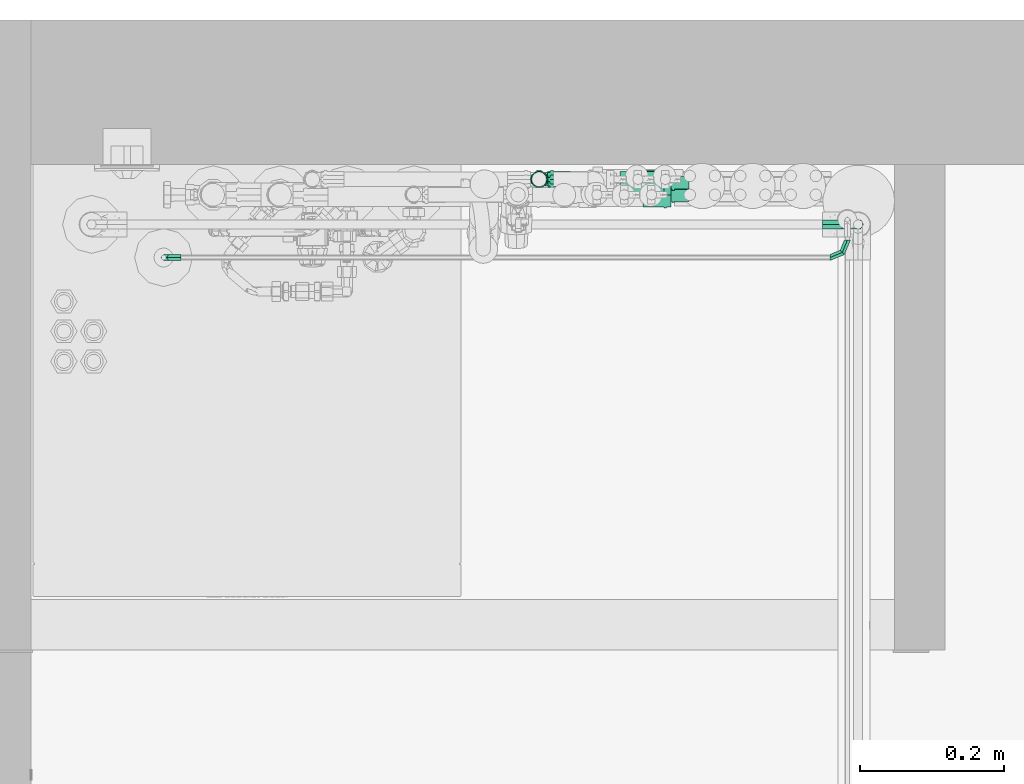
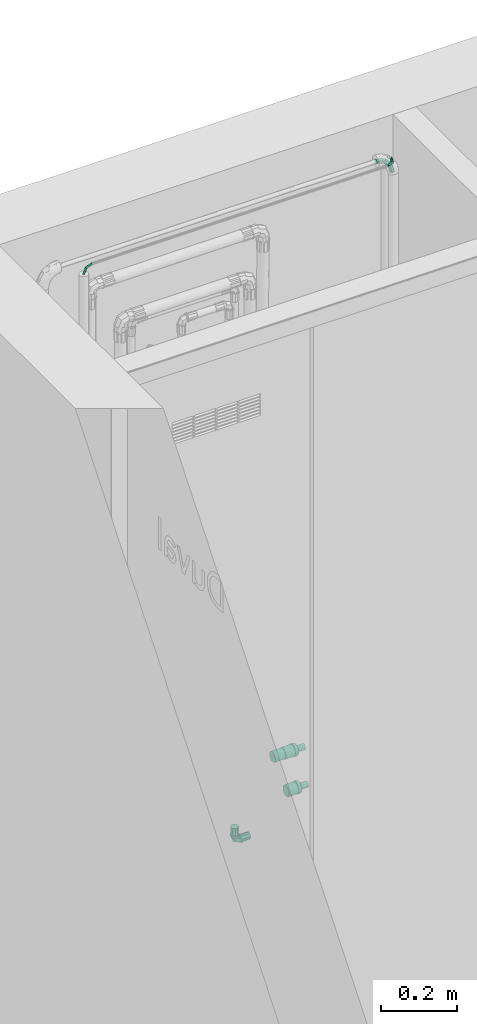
# One storey, part 24 of 32: 6 flow fittings, 1 flow segment.
"""IFC2X3 building model written with IfcOpenShell, lengths in metres."""

import ifcopenshell
import ifcopenshell.guid

model = None  # the IFC model being written
_history = None  # IfcOwnerHistory: only IFC2X3 demands one
_inside = {}  # id of a spatial element -> (the spatial element, [elements in it])
_under = {}  # id of a project, library or spatial element -> (it, [spatial elements below it])
_declared = {}  # id of a project -> (the project, [libraries it declares])
_typed = {}  # id of a type object -> (the type object, [elements of that type])
_made_of = {}  # id of a material, layer set ... -> (it, [elements and type objects made of it])


def new_model(schema):
    """Start an empty IFC model of exactly this schema.

    Asked for "IFC4X3", IfcOpenShell would pick the latest addendum, in which some entities
    have other attributes; the version numbers below select the first issue.
    IFC2X3 requires an IfcOwnerHistory on every rooted entity: one is made here for all.
    """
    global model, _history
    if schema == "IFC4X3":
        model = ifcopenshell.file(schema_version=(4, 3, 0, 0))
    else:
        model = ifcopenshell.file(schema=schema)
    _inside.clear()
    _under.clear()
    _declared.clear()
    _typed.clear()
    _made_of.clear()
    _history = None
    if model.schema == "IFC2X3":
        org = make("IfcOrganization", Name="unknown")
        user = make(
            "IfcPersonAndOrganization",
            ThePerson=make("IfcPerson", FamilyName="unknown"),
            TheOrganization=org,
        )
        app = make(
            "IfcApplication",
            ApplicationDeveloper=org,
            Version="unknown",
            ApplicationFullName="unknown",
            ApplicationIdentifier="unknown",
        )
        _history = make(
            "IfcOwnerHistory",
            OwningUser=user,
            OwningApplication=app,
            ChangeAction="ADDED",
            CreationDate=0,
        )
    return model


def make(cls, **values):
    """One entity of the class cls with the attributes given. An attribute that is None is left unset."""
    return model.create_entity(
        cls, **{name: value for name, value in values.items() if value is not None}
    )


def entity(cls, *values):
    """Any entity or typed value of the class cls, its attributes in the order of the schema. None: left unset."""
    e = model.create_entity(cls)
    for i, value in enumerate(values):
        if value is not None:
            e[i] = value
    return e


def rooted(cls, **values):
    """An entity with a GlobalId (a new one), such as an element, a storey or a relation."""
    return make(cls, GlobalId=ifcopenshell.guid.new(), OwnerHistory=_history, **values)


def si_unit(unit_type, name, prefix=None):
    """IfcSIUnit, for example si_unit("LENGTHUNIT", "METRE", prefix="MILLI")."""
    return make("IfcSIUnit", UnitType=unit_type, Prefix=prefix, Name=name)


def converted_unit(unit_type, name, factor, base, dimensions=None, offset=None):
    """IfcConversionBasedUnit, such as the inch: factor (a typed value) times the base unit."""
    return make(
        "IfcConversionBasedUnit"
        if offset is None
        else "IfcConversionBasedUnitWithOffset",
        ConversionOffset=offset,
        Dimensions=None
        if dimensions is None
        else entity("IfcDimensionalExponents", *dimensions),
        UnitType=unit_type,
        Name=name,
        ConversionFactor=make(
            "IfcMeasureWithUnit", ValueComponent=factor, UnitComponent=base
        ),
    )


def derived_unit(unit_type, elements):
    """IfcDerivedUnit: a product of units, each with its exponent."""
    return make(
        "IfcDerivedUnit",
        Elements=[
            make("IfcDerivedUnitElement", Unit=unit, Exponent=power)
            for unit, power in elements
        ],
        UnitType=unit_type,
    )


def assignment(units):
    """IfcUnitAssignment: the units of a project."""
    return None if units is None else make("IfcUnitAssignment", Units=units)


def point(xyz):
    """IfcCartesianPoint."""
    return None if xyz is None else make("IfcCartesianPoint", Coordinates=xyz)


def direction(xyz):
    """IfcDirection."""
    return None if xyz is None else make("IfcDirection", DirectionRatios=xyz)


def frame(location, z_axis=None, x_axis=None):
    """IfcAxis2Placement3D, a coordinate frame: its origin and axes. An axis left out is left unset."""
    return make(
        "IfcAxis2Placement3D",
        Location=point(location),
        Axis=direction(z_axis),
        RefDirection=direction(x_axis),
    )


def frame_2d(location, x_axis=None):
    """IfcAxis2Placement2D, a coordinate frame in the plane: its origin and x axis."""
    return make(
        "IfcAxis2Placement2D", Location=point(location), RefDirection=direction(x_axis)
    )


def origin():
    """The frame at (0, 0, 0) with its axes left unset."""
    return frame((0.0, 0.0, 0.0))


def place(relative_to, where):
    """IfcLocalPlacement: puts the frame where relative to a parent placement (None: the world)."""
    return make(
        "IfcLocalPlacement", PlacementRelTo=relative_to, RelativePlacement=where
    )


def context(
    kind, dimensions, precision=None, world=None, true_north=None, identifier=None
):
    """IfcGeometricRepresentationContext, for example the 3D "Model" context."""
    return make(
        "IfcGeometricRepresentationContext",
        ContextIdentifier=identifier,
        ContextType=kind,
        CoordinateSpaceDimension=dimensions,
        Precision=precision,
        WorldCoordinateSystem=world,
        TrueNorth=true_north,
    )


def subcontext(parent, identifier, kind, view, scale=None):
    """IfcGeometricRepresentationSubContext, for example "Body" below "Model"."""
    return make(
        "IfcGeometricRepresentationSubContext",
        ContextIdentifier=identifier,
        ContextType=kind,
        ParentContext=parent,
        TargetScale=scale,
        TargetView=view,
    )


def project(units=None, contexts=None):
    """IfcProject with its units and contexts."""
    return rooted(
        "IfcProject",
        Name="project",
        RepresentationContexts=contexts,
        UnitsInContext=assignment(units),
    )


def spatial(cls, under=None, at=None, **own):
    """A site, building, storey or space (cls), placed at a placement, below another one or the project."""
    s = rooted(cls, ObjectPlacement=at, **own)
    if under is not None:
        _under.setdefault(under.id(), (under, []))[1].append(s)
    return s


def profile(cls, at=None, kind="AREA", **sizes):
    """A parametric profile (cls). Its sizes go by their IFC names, for example OverallWidth=200.0."""
    return make(cls, ProfileType=kind, Position=at, **sizes)


def circle(**sizes):
    """IfcCircleProfileDef."""
    return profile("IfcCircleProfileDef", **sizes)


def extrude(swept, where, along, depth):
    """IfcExtrudedAreaSolid: the profile swept, set in the frame where, extruded along a direction by depth."""
    return make(
        "IfcExtrudedAreaSolid",
        SweptArea=swept,
        Position=where,
        ExtrudedDirection=direction(along),
        Depth=depth,
    )


def faces_of(points, faces, orient=None, outer=None):
    """IfcFace entities. A face is a list of loops; a loop is a list of indices into points, from 0.

    orient and outer hold one flag for each loop. By default every Orientation is true, the
    first loop of a face is its IfcFaceOuterBound and the others are IfcFaceBound.
    """
    made = []
    for i, loops in enumerate(faces):
        bounds = []
        for j, loop in enumerate(loops):
            is_outer = j == 0 if outer is None else outer[i][j]
            bounds.append(
                make(
                    "IfcFaceOuterBound" if is_outer else "IfcFaceBound",
                    Bound=make("IfcPolyLoop", Polygon=[points[k] for k in loop]),
                    Orientation=True if orient is None else orient[i][j],
                )
            )
        made.append(make("IfcFace", Bounds=bounds))
    return made


def faceted_brep(points, faces, orient=None, outer=None, voids=None):
    """IfcFacetedBrep: a solid bounded by flat faces; with voids (closed shells), ...WithVoids."""
    shared = [point(p) for p in points]
    hull = make("IfcClosedShell", CfsFaces=faces_of(shared, faces, orient, outer))
    if voids is None:
        return make("IfcFacetedBrep", Outer=hull)
    return make(
        "IfcFacetedBrepWithVoids",
        Outer=hull,
        Voids=[
            make(cls, CfsFaces=faces_of(shared, fs, o, b)) for cls, fs, o, b in voids
        ],
    )


def shape(context_of_items, identifier, shape_type, items):
    """IfcShapeRepresentation: the items that make up one representation, for example the "Body"."""
    return make(
        "IfcShapeRepresentation",
        ContextOfItems=context_of_items,
        RepresentationIdentifier=identifier,
        RepresentationType=shape_type,
        Items=items,
    )


def source(mapping_origin, context_of_items, identifier, shape_type, items):
    """IfcRepresentationMap: a shape defined once, which mapped items show again and again."""
    return make(
        "IfcRepresentationMap",
        MappingOrigin=mapping_origin,
        MappedRepresentation=shape(context_of_items, identifier, shape_type, items),
    )


def transform(
    local_origin,
    x_axis=None,
    y_axis=None,
    z_axis=None,
    scale=None,
    scale2=None,
    scale3=None,
    uniform=True,
):
    """IfcCartesianTransformationOperator3D, or its non-uniform kind. x_axis, y_axis, z_axis: its Axis1, 2, 3."""
    if uniform:
        return make(
            "IfcCartesianTransformationOperator3D",
            Axis1=direction(x_axis),
            Axis2=direction(y_axis),
            LocalOrigin=point(local_origin),
            Scale=scale,
            Axis3=direction(z_axis),
        )
    return make(
        "IfcCartesianTransformationOperator3DnonUniform",
        Axis1=direction(x_axis),
        Axis2=direction(y_axis),
        LocalOrigin=point(local_origin),
        Scale=scale,
        Axis3=direction(z_axis),
        Scale2=scale2,
        Scale3=scale3,
    )


def mapped(mapping_source, mapping_target):
    """IfcMappedItem: shows the shape of a source again, moved by a transform."""
    return make(
        "IfcMappedItem", MappingSource=mapping_source, MappingTarget=mapping_target
    )


def material(Name=None, Category=None):
    """IfcMaterial."""
    return make("IfcMaterial", Name=Name, Category=Category)


def material_list(materials):
    """IfcMaterialList."""
    return make("IfcMaterialList", Materials=materials)


def made_of(thing, what):
    """Note that an element or type object is made of a material, layer set ...; save() writes the relation."""
    if what is not None:
        _made_of.setdefault(what.id(), (what, []))[1].append(thing)
    return thing


def type_object(cls, material=None, **own):
    """A type object (cls), such as IfcWallType, which elements share."""
    return made_of(rooted(cls, **own), material)


def type_shapes(of_type, sources):
    """Give a type object the sources (RepresentationMaps) that its elements show as mapped items."""
    of_type.RepresentationMaps = sources


def element(
    cls,
    number,
    at=None,
    inside=None,
    cuts=None,
    type_object=None,
    material=None,
    context=None,
    identifier="Body",
    shape_type=None,
    held_by="IfcProductDefinitionShape",
    body=None,
    shapes=None,
    **own,
):
    """One element of the class cls, such as IfcWall. Its Tag is "e" and its number.

    at: its placement. inside: the storey or other place that contains it. cuts: it is an
    opening in that element (IfcRelVoidsElement). A single representation is given by context,
    identifier, shape_type and body (its items); several are given by shapes. held_by: the class
    of the entity that holds the representations. save() writes the other relations.
    """
    e = rooted(cls, Tag="e%d" % number, ObjectPlacement=at, **own)
    if body is not None:
        shapes = [shape(context, identifier, shape_type, body)]
    if shapes is not None:
        e.Representation = make(held_by, Representations=shapes)
    if inside is not None:
        _inside.setdefault(inside.id(), (inside, []))[1].append(e)
    if cuts is not None:
        rooted(
            "IfcRelVoidsElement", RelatingBuildingElement=cuts, RelatedOpeningElement=e
        )
    if type_object is not None:
        _typed.setdefault(type_object.id(), (type_object, []))[1].append(e)
    return made_of(e, material)


def aggregate(whole, parts):
    """IfcRelAggregates: a whole, such as a stair, and the parts it consists of."""
    return rooted("IfcRelAggregates", RelatingObject=whole, RelatedObjects=parts)


def save(model, path):
    """Write the relations noted so far, then the file.

    IfcRelAggregates (storeys below a building ...), IfcRelContainedInSpatialStructure (elements
    in a storey), IfcRelDefinesByType, IfcRelAssociatesMaterial and IfcRelDeclares: one each for
    every whole, place, type object, material and project.
    """
    for whole, parts in _under.values():
        aggregate(whole, parts)
    for where, things in _inside.values():
        rooted(
            "IfcRelContainedInSpatialStructure",
            RelatedElements=things,
            RelatingStructure=where,
        )
    for kind, things in _typed.values():
        rooted("IfcRelDefinesByType", RelatedObjects=things, RelatingType=kind)
    for what, things in _made_of.values():
        rooted("IfcRelAssociatesMaterial", RelatedObjects=things, RelatingMaterial=what)
    for by, libraries in _declared.values():
        rooted("IfcRelDeclares", RelatingContext=by, RelatedDefinitions=libraries)
    model.write(path)


model = new_model("IFC2X3")

# Units and contexts
model_context = context("Model", 3, precision=1e-05, world=origin(), true_north=direction((6.123031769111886e-17, 1.0)))
body_context = subcontext(model_context, "Body", "Model", "MODEL_VIEW")
ifc_project = project(units=[si_unit("LENGTHUNIT", "METRE"), si_unit("AREAUNIT", "SQUARE_METRE"), si_unit("VOLUMEUNIT", "CUBIC_METRE"), converted_unit("PLANEANGLEUNIT", "DEGREE", entity("IfcPlaneAngleMeasure", 0.017453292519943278), si_unit("PLANEANGLEUNIT", "RADIAN"), dimensions=[0, 0, 0, 0, 0, 0, 0]), si_unit("MASSUNIT", "GRAM", prefix="KILO"), derived_unit("MASSDENSITYUNIT", [(si_unit("MASSUNIT", "GRAM", prefix="KILO"), 1), (si_unit("LENGTHUNIT", "METRE"), -3)]), derived_unit("IONCONCENTRATIONUNIT", [(si_unit("MASSUNIT", "GRAM", prefix="KILO"), 1), (si_unit("LENGTHUNIT", "METRE"), -3)]), derived_unit("MOMENTOFINERTIAUNIT", [(si_unit("LENGTHUNIT", "METRE"), 4)]), si_unit("TIMEUNIT", "SECOND"), si_unit("FREQUENCYUNIT", "HERTZ"), si_unit("THERMODYNAMICTEMPERATUREUNIT", "DEGREE_CELSIUS"), derived_unit("THERMALTRANSMITTANCEUNIT", [(si_unit("MASSUNIT", "GRAM", prefix="KILO"), 1), (si_unit("THERMODYNAMICTEMPERATUREUNIT", "KELVIN"), -1), (si_unit("TIMEUNIT", "SECOND"), -3)]), derived_unit("THERMALCONDUCTANCEUNIT", [(si_unit("MASSUNIT", "GRAM", prefix="KILO"), 1), (si_unit("THERMODYNAMICTEMPERATUREUNIT", "KELVIN"), -1), (si_unit("TIMEUNIT", "SECOND"), -3), (si_unit("LENGTHUNIT", "METRE"), 1)]), derived_unit("VOLUMETRICFLOWRATEUNIT", [(si_unit("LENGTHUNIT", "METRE", prefix="DECI"), 3), (si_unit("TIMEUNIT", "SECOND"), -1)]), derived_unit("MASSFLOWRATEUNIT", [(si_unit("MASSUNIT", "GRAM", prefix="KILO"), 1), (si_unit("TIMEUNIT", "SECOND"), -1)]), derived_unit("ROTATIONALFREQUENCYUNIT", [(si_unit("TIMEUNIT", "SECOND"), -1)]), si_unit("ELECTRICCURRENTUNIT", "AMPERE"), si_unit("ELECTRICVOLTAGEUNIT", "VOLT"), si_unit("POWERUNIT", "WATT"), si_unit("FORCEUNIT", "NEWTON", prefix="KILO"), si_unit("ILLUMINANCEUNIT", "LUX"), si_unit("LUMINOUSFLUXUNIT", "LUMEN"), si_unit("LUMINOUSINTENSITYUNIT", "CANDELA"), si_unit("ENERGYUNIT", "JOULE"), derived_unit("USERDEFINED", [(si_unit("MASSUNIT", "GRAM", prefix="KILO"), -1), (si_unit("LENGTHUNIT", "METRE"), -2), (si_unit("TIMEUNIT", "SECOND"), 3), (si_unit("LUMINOUSFLUXUNIT", "LUMEN"), 1)]), derived_unit("USERDEFINED", [(si_unit("MASSUNIT", "GRAM", prefix="KILO"), 1), (si_unit("TIMEUNIT", "SECOND"), -3), (si_unit("LENGTHUNIT", "METRE"), 3), (si_unit("ELECTRICCURRENTUNIT", "AMPERE"), -2)]), derived_unit("SOUNDPOWERUNIT", [(si_unit("MASSUNIT", "GRAM", prefix="KILO"), 1), (si_unit("TIMEUNIT", "SECOND"), -3), (si_unit("LENGTHUNIT", "METRE"), 2)]), derived_unit("SOUNDPRESSUREUNIT", [(si_unit("MASSUNIT", "GRAM", prefix="KILO"), 1), (si_unit("LENGTHUNIT", "METRE"), -1), (si_unit("TIMEUNIT", "SECOND"), -2)]), derived_unit("LINEARVELOCITYUNIT", [(si_unit("LENGTHUNIT", "METRE"), 1), (si_unit("TIMEUNIT", "SECOND"), -1)]), si_unit("PRESSUREUNIT", "PASCAL"), derived_unit("USERDEFINED", [(si_unit("MASSUNIT", "GRAM", prefix="KILO"), 1), (si_unit("LENGTHUNIT", "METRE"), -2), (si_unit("TIMEUNIT", "SECOND"), -2)]), derived_unit("LINEARFORCEUNIT", [(si_unit("MASSUNIT", "GRAM", prefix="KILO"), 1), (si_unit("TIMEUNIT", "SECOND"), -2)]), derived_unit("PLANARFORCEUNIT", [(si_unit("MASSUNIT", "GRAM", prefix="KILO"), 1), (si_unit("LENGTHUNIT", "METRE"), -1), (si_unit("TIMEUNIT", "SECOND"), -2)]), derived_unit("SPECIFICHEATCAPACITYUNIT", [(si_unit("THERMODYNAMICTEMPERATUREUNIT", "KELVIN"), -1), (si_unit("LENGTHUNIT", "METRE"), 2), (si_unit("TIMEUNIT", "SECOND"), -2)]), derived_unit("HEATFLUXDENSITYUNIT", [(si_unit("MASSUNIT", "GRAM", prefix="KILO"), 1), (si_unit("TIMEUNIT", "SECOND"), -3)]), derived_unit("HEATINGVALUEUNIT", [(si_unit("LENGTHUNIT", "METRE"), 2), (si_unit("TIMEUNIT", "SECOND"), -2)]), derived_unit("VAPORPERMEABILITYUNIT", [(si_unit("LENGTHUNIT", "METRE"), -1), (si_unit("TIMEUNIT", "SECOND"), 1)]), derived_unit("DYNAMICVISCOSITYUNIT", [(si_unit("MASSUNIT", "GRAM", prefix="KILO"), 1), (si_unit("TIMEUNIT", "SECOND"), -1), (si_unit("LENGTHUNIT", "METRE"), -1)]), derived_unit("THERMALEXPANSIONCOEFFICIENTUNIT", [(si_unit("THERMODYNAMICTEMPERATUREUNIT", "KELVIN"), -1)]), derived_unit("MODULUSOFELASTICITYUNIT", [(si_unit("MASSUNIT", "GRAM", prefix="KILO"), 1), (si_unit("LENGTHUNIT", "METRE"), -1), (si_unit("TIMEUNIT", "SECOND"), -2)]), derived_unit("ISOTHERMALMOISTURECAPACITYUNIT", [(si_unit("MASSUNIT", "GRAM", prefix="KILO"), -1), (si_unit("LENGTHUNIT", "METRE"), 3)]), derived_unit("MOISTUREDIFFUSIVITYUNIT", [(si_unit("TIMEUNIT", "SECOND"), -1), (si_unit("LENGTHUNIT", "METRE"), 2)]), derived_unit("MASSPERLENGTHUNIT", [(si_unit("MASSUNIT", "GRAM", prefix="KILO"), 1), (si_unit("LENGTHUNIT", "METRE"), -1)]), derived_unit("THERMALRESISTANCEUNIT", [(si_unit("MASSUNIT", "GRAM", prefix="KILO"), -1), (si_unit("TIMEUNIT", "SECOND"), 3), (si_unit("THERMODYNAMICTEMPERATUREUNIT", "KELVIN"), 1)]), derived_unit("ACCELERATIONUNIT", [(si_unit("LENGTHUNIT", "METRE"), 1), (si_unit("TIMEUNIT", "SECOND"), -2)]), derived_unit("ANGULARVELOCITYUNIT", [(si_unit("TIMEUNIT", "SECOND"), -1), (si_unit("PLANEANGLEUNIT", "RADIAN"), 1)]), derived_unit("LINEARSTIFFNESSUNIT", [(si_unit("MASSUNIT", "GRAM", prefix="KILO"), 1), (si_unit("TIMEUNIT", "SECOND"), -2)]), derived_unit("WARPINGCONSTANTUNIT", [(si_unit("LENGTHUNIT", "METRE"), 6)]), derived_unit("LINEARMOMENTUNIT", [(si_unit("MASSUNIT", "GRAM", prefix="KILO"), 1), (si_unit("LENGTHUNIT", "METRE"), 1), (si_unit("TIMEUNIT", "SECOND"), -2)]), derived_unit("TORQUEUNIT", [(si_unit("MASSUNIT", "GRAM", prefix="KILO"), 1), (si_unit("LENGTHUNIT", "METRE"), 2), (si_unit("TIMEUNIT", "SECOND"), -2)])], contexts=[model_context])

# Site, building, storey
site_placement = place(None, origin())
site = spatial("IfcSite", under=ifc_project, at=site_placement, Name="Default", CompositionType="ELEMENT")
building_placement = place(site_placement, origin())
building = spatial("IfcBuilding", under=site, at=building_placement, CompositionType="ELEMENT")
storey_placement = place(building_placement, origin())
storey = spatial("IfcBuildingStorey", under=building, at=storey_placement, Name="Niveau 0", CompositionType="ELEMENT", Elevation=-1.949160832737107e-14)

# Flow segment
pipe_segment_type = type_object("IfcPipeSegmentType", Name="Canalisation:COMAP MULTISKIN - SKINPRESS PPSU", PredefinedType="NOTDEFINED")
flow_segment_placement = place(storey_placement, origin())
element("IfcFlowSegment", 1, at=flow_segment_placement, inside=storey, type_object=pipe_segment_type, Name="Canalisation:COMAP MULTISKIN - SKINPRESS PPSU", ObjectType="Canalisation:COMAP MULTISKIN - SKINPRESS PPSU", context=body_context, shape_type="SweptSolid", body=[
    extrude(circle(Radius=0.016, at=frame_2d((0.0, -6.767919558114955e-17), x_axis=(1.0, 0.0))), frame((-13.891260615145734, 2.843266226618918, 0.5811358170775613), z_axis=(1.0, 0.0, 0.0), x_axis=(0.0, 1.0, 0.0)), (0.0, 0.0, 1.0), 0.060999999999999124),
])

# Flow fittings
ifc_material_1 = material(Name="Bague blanche VisuControl")
ifc_material_2 = material(Name="Inox")
ifc_material_3 = material(Name="PPSU")
ifc_material_list_1 = material_list([ifc_material_1, ifc_material_2, ifc_material_3])
ifc_material_list_2 = material_list([ifc_material_3, ifc_material_1, ifc_material_2])
pipe_fitting_type_1 = type_object("IfcPipeFittingType", Name="COMAP - SKINPRESS ppsu - Coude_45_90_9041W_9090W:Coude_45_90_9041W_9090W", PredefinedType="NOTDEFINED", material=ifc_material_list_2)
shared_shape_1 = source(origin(), body_context, "Body", "Brep", [
    faceted_brep([(0.010825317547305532, 0.01600000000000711, -0.006250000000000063), (0.012500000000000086, 0.016000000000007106, 0.0), (0.010825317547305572, 0.01600000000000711, 0.006249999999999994), (0.003235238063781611, 0.016000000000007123, 0.012074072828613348), (-0.0032352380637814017, 0.016000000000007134, 0.012074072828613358), (-0.010825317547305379, 0.016000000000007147, 0.006250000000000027), (-0.012499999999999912, 0.01600000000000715, 0.0), (-0.010825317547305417, 0.016000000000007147, -0.006249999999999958), (-0.003235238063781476, 0.016000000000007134, -0.01207407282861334), (0.003235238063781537, 0.016000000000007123, -0.012074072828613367), (-0.010825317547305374, 0.020000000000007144, 0.006250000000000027), (-0.003235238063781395, 0.020000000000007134, 0.012074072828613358), (0.0032352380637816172, 0.020000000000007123, 0.012074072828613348), (0.010825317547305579, 0.020000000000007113, 0.006249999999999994), (0.012500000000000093, 0.020000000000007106, 0.0), (0.010825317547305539, 0.020000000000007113, -0.006250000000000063), (0.0032352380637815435, 0.020000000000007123, -0.012074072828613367), (-0.0032352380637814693, 0.020000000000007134, -0.01207407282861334), (-0.01082531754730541, 0.020000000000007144, -0.006249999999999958), (-0.012499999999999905, 0.02000000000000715, 0.0)], [[[0, 1, 2, 3, 4, 5, 6, 7, 8, 9]], [[10, 11, 12, 13, 14, 15, 16, 17, 18, 19]], [[7, 6, 19, 18]], [[8, 7, 18, 17]], [[17, 16, 9, 8]], [[0, 9, 16, 15]], [[1, 0, 15, 14]], [[2, 1, 14, 13]], [[3, 2, 13, 12]], [[12, 11, 4, 3]], [[5, 4, 11, 10]], [[6, 5, 10, 19]]]),
    faceted_brep([(0.009526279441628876, 0.015000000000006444, -0.005500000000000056), (0.011000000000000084, 0.015000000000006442, 0.0), (0.009526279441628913, 0.015000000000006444, 0.0054999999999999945), (0.002847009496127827, 0.015000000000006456, 0.010625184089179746), (-0.002847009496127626, 0.015000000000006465, 0.010625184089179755), (-0.009526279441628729, 0.015000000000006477, 0.005500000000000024), (-0.010999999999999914, 0.01500000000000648, 0.0), (-0.009526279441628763, 0.015000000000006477, -0.005499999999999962), (-0.0028470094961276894, 0.015000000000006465, -0.010625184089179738), (0.0028470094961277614, 0.015000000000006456, -0.010625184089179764), (-0.010999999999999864, 0.04400000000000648, 0.0), (-0.009526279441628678, 0.04400000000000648, 0.005500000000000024), (-0.0028470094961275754, 0.04400000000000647, 0.010625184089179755), (0.0028470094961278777, 0.04400000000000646, 0.010625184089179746), (0.009526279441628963, 0.044000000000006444, 0.0054999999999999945), (0.011000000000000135, 0.044000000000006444, 0.0), (0.009526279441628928, 0.044000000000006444, -0.005500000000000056), (0.002847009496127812, 0.04400000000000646, -0.010625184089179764), (-0.0028470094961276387, 0.04400000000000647, -0.010625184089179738), (-0.009526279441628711, 0.04400000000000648, -0.005499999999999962)], [[[0, 1, 2, 3, 4, 5, 6, 7, 8, 9]], [[10, 11, 12, 13, 14, 15, 16, 17, 18, 19]], [[7, 6, 10, 19]], [[8, 7, 19, 18]], [[18, 17, 9, 8]], [[0, 9, 17, 16]], [[1, 0, 16, 15]], [[2, 1, 15, 14]], [[3, 2, 14, 13]], [[13, 12, 4, 3]], [[5, 4, 12, 11]], [[6, 5, 11, 10]]]),
    faceted_brep([(-0.015999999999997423, 0.010825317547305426, -0.006250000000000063), (-0.01599999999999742, 0.01249999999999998, 0.0), (-0.015999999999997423, 0.010825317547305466, 0.006249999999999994), (-0.015999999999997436, 0.0032352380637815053, 0.012074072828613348), (-0.015999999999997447, -0.0032352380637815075, 0.012074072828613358), (-0.015999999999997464, -0.010825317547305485, 0.006250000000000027), (-0.015999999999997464, -0.012500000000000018, 0.0), (-0.015999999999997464, -0.010825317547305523, -0.006249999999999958), (-0.015999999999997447, -0.0032352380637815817, -0.01207407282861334), (-0.015999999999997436, 0.003235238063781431, -0.012074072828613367), (-0.019999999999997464, -0.010825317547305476, 0.006250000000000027), (-0.01999999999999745, -0.003235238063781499, 0.012074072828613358), (-0.019999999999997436, 0.0032352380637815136, 0.012074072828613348), (-0.019999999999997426, 0.010825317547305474, 0.006249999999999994), (-0.01999999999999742, 0.012499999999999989, 0.0), (-0.019999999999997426, 0.010825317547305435, -0.006250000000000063), (-0.019999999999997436, 0.00323523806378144, -0.012074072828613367), (-0.01999999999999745, -0.003235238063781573, -0.01207407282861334), (-0.019999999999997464, -0.010825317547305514, -0.006249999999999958), (-0.019999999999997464, -0.01250000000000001, 0.0)], [[[0, 1, 2, 3, 4, 5, 6, 7, 8, 9]], [[10, 11, 12, 13, 14, 15, 16, 17, 18, 19]], [[7, 6, 19, 18]], [[8, 7, 18, 17]], [[17, 16, 9, 8]], [[0, 9, 16, 15]], [[1, 0, 15, 14]], [[2, 1, 14, 13]], [[3, 2, 13, 12]], [[12, 11, 4, 3]], [[5, 4, 11, 10]], [[6, 5, 10, 19]]]),
    faceted_brep([(-0.014999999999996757, 0.009526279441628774, -0.005500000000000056), (-0.014999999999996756, 0.01099999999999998, 0.0), (-0.014999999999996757, 0.009526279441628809, 0.0054999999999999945), (-0.01499999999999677, 0.0028470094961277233, 0.010625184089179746), (-0.01499999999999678, -0.0028470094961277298, 0.010625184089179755), (-0.01499999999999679, -0.009526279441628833, 0.005500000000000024), (-0.014999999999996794, -0.011000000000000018, 0.0), (-0.01499999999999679, -0.009526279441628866, -0.005499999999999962), (-0.01499999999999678, -0.002847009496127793, -0.010625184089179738), (-0.01499999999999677, 0.002847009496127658, -0.010625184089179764), (-0.0439999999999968, -0.010999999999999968, 0.0), (-0.04399999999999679, -0.009526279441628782, 0.005500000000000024), (-0.043999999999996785, -0.002847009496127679, 0.010625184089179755), (-0.04399999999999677, 0.002847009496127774, 0.010625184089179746), (-0.04399999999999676, 0.00952627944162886, 0.0054999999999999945), (-0.04399999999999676, 0.01100000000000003, 0.0), (-0.04399999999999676, 0.009526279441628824, -0.005500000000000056), (-0.04399999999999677, 0.0028470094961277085, -0.010625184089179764), (-0.043999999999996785, -0.0028470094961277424, -0.010625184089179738), (-0.04399999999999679, -0.009526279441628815, -0.005499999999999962)], [[[0, 1, 2, 3, 4, 5, 6, 7, 8, 9]], [[10, 11, 12, 13, 14, 15, 16, 17, 18, 19]], [[7, 6, 10, 19]], [[8, 7, 19, 18]], [[18, 17, 9, 8]], [[0, 9, 17, 16]], [[1, 0, 16, 15]], [[2, 1, 15, 14]], [[3, 2, 14, 13]], [[13, 12, 4, 3]], [[5, 4, 12, 11]], [[6, 5, 11, 10]]]),
    faceted_brep([(-0.01499999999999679, -0.009526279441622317, -0.005500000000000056), (-0.014999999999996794, -0.010999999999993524, 0.0), (-0.01499999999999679, -0.009526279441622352, 0.0054999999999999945), (-0.01499999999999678, -0.0028470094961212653, 0.010625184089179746), (-0.01499999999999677, 0.0028470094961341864, 0.010625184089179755), (-0.014999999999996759, 0.00952627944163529, 0.005500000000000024), (-0.014999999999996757, 0.011000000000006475, 0.0), (-0.014999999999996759, 0.009526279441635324, -0.005499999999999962), (-0.01499999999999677, 0.0028470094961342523, -0.010625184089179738), (-0.01499999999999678, -0.0028470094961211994, -0.010625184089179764), (-0.011999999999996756, 0.011000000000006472, 0.0), (-0.011999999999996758, 0.009526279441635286, 0.005500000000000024), (-0.011999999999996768, 0.0028470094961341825, 0.010625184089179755), (-0.011999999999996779, -0.0028470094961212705, 0.010625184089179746), (-0.01199999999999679, -0.009526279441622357, 0.0054999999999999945), (-0.011999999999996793, -0.010999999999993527, 0.0), (-0.01199999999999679, -0.00952627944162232, -0.005500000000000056), (-0.011999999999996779, -0.002847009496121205, -0.010625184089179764), (-0.011999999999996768, 0.002847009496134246, -0.010625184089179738), (-0.011999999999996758, 0.009526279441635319, -0.005499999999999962)], [[[0, 1, 2, 3, 4, 5, 6, 7, 8, 9]], [[10, 11, 12, 13, 14, 15, 16, 17, 18, 19]], [[7, 6, 10, 19]], [[8, 7, 19, 18]], [[18, 17, 9, 8]], [[0, 9, 17, 16]], [[1, 0, 16, 15]], [[2, 1, 15, 14]], [[3, 2, 14, 13]], [[13, 12, 4, 3]], [[5, 4, 12, 11]], [[6, 5, 11, 10]]]),
    faceted_brep([(-0.0054999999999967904, 0.015000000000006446, 0.009526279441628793), (0.0, 0.015000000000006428, 0.011), (0.00550000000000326, 0.015000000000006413, 0.009526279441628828), (0.010625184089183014, 0.015000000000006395, 0.0028470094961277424), (0.010625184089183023, 0.015000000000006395, -0.0028470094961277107), (0.00550000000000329, 0.015000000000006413, -0.009526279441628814), (0.0, 0.015000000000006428, -0.011), (-0.005499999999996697, 0.015000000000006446, -0.009526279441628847), (-0.010625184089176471, 0.015000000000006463, -0.002847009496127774), (-0.010625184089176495, 0.015000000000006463, 0.002847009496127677), (0.0, 0.012000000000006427, -0.011), (0.00550000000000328, 0.012000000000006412, -0.009526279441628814), (0.010625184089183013, 0.012000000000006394, -0.0028470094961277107), (0.010625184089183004, 0.012000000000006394, 0.0028470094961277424), (0.0055000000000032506, 0.012000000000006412, 0.009526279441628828), (0.0, 0.012000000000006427, 0.011), (-0.0054999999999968, 0.012000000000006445, 0.009526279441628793), (-0.010625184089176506, 0.012000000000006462, 0.002847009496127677), (-0.010625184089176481, 0.012000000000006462, -0.002847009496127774), (-0.005499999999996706, 0.012000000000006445, -0.009526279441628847)], [[[0, 1, 2, 3, 4, 5, 6, 7, 8, 9]], [[10, 11, 12, 13, 14, 15, 16, 17, 18, 19]], [[7, 6, 10, 19]], [[8, 7, 19, 18]], [[18, 17, 9, 8]], [[0, 9, 17, 16]], [[1, 0, 16, 15]], [[2, 1, 15, 14]], [[3, 2, 14, 13]], [[13, 12, 4, 3]], [[5, 4, 12, 11]], [[6, 5, 11, 10]]]),
    faceted_brep([(0.004263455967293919, -0.004263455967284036, 0.0), (0.00037436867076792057, -0.00037436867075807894, -0.009526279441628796), (0.0055000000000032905, 0.012000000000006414, -0.009526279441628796), (0.011000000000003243, 0.012000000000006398, 0.0), (-0.007403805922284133, 0.007403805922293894, -0.009526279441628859), (-0.005499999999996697, 0.012000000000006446, -0.009526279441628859), (-0.011292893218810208, 0.011292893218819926, 0.0), (-0.010999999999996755, 0.012000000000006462, 0.0), (-0.007403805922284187, 0.007403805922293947, 0.009526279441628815), (-0.005499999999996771, 0.012000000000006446, 0.009526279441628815), (0.000374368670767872, -0.00037436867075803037, 0.009526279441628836), (0.005500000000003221, 0.012000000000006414, 0.009526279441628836), (-0.011999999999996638, -0.010999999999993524, 0.0), (-0.011999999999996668, -0.005499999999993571, -0.009526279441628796), (-0.011999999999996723, 0.005500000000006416, -0.009526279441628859), (-0.011999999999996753, 0.011000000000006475, 0.0), (-0.011999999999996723, 0.005500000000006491, 0.009526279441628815), (-0.011999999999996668, -0.005499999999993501, 0.009526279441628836)], [[[0, 1, 2, 3]], [[1, 4, 5, 2]], [[4, 6, 7, 5]], [[6, 8, 9, 7]], [[8, 10, 11, 9]], [[10, 0, 3, 11]], [[12, 13, 1, 0]], [[13, 14, 4, 1]], [[14, 15, 6, 4]], [[15, 16, 8, 6]], [[16, 17, 10, 8]], [[17, 12, 0, 10]], [[3, 2, 5, 7, 9, 11]], [[17, 16, 15, 14, 13, 12]]]),
])
type_shapes(pipe_fitting_type_1, [shared_shape_1])
flow_fitting_1_placement = place(storey_placement, frame((-14.00355000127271, 2.848080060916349, 0.35000000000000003), z_axis=(0.0010646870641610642, -0.9999994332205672, 0.0), x_axis=(0.0, 0.0, -1.0)))
element("IfcFlowFitting", 2, at=flow_fitting_1_placement, inside=storey, type_object=pipe_fitting_type_1, material=ifc_material_list_1, Name="COMAP - SKINPRESS ppsu - Coude_45_90_9041W_9090W:Coude_45_90_9041W_9090W", ObjectType="COMAP - SKINPRESS ppsu - Coude_45_90_9041W_9090W:Coude_45_90_9041W_9090W", context=body_context, shape_type="MappedRepresentation", body=[
    mapped(shared_shape_1, transform((0.0, 0.0, 0.0), scale=1.0)),
])
pipe_fitting_type_2 = type_object("IfcPipeFittingType", Name="COMAP - SKINPRESS ppsu - Manchon_Réduit_9240W:Manchon_Réduit_9240W", PredefinedType="NOTDEFINED", material=ifc_material_list_1)
shared_shape_2 = source(origin(), body_context, "Body", "SweptSolid", [
    extrude(circle(Radius=0.0105, at=frame_2d((6.058315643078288e-19, -1.696321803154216e-17), x_axis=(1.0, 0.0))), frame((-0.01000000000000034, 0.0, 0.0), z_axis=(1.0, 0.0, 0.0), x_axis=(0.0, 1.0, 0.0)), (0.0, 0.0, 1.0), 0.004),
    extrude(circle(Radius=0.009000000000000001, at=frame_2d((4.420736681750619e-19, -1.453990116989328e-17), x_axis=(1.0, 0.0))), frame((-0.03000000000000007, 0.0, 0.0), z_axis=(1.0, 0.0, 0.0), x_axis=(0.0, 1.0, 0.0)), (0.0, 0.0, 1.0), 0.025),
    extrude(circle(Radius=0.018500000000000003, at=frame_2d((-1.0509276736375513e-18, -8.32893021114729e-17), x_axis=(1.0, 0.0))), frame((0.0010000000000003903, 0.0, 0.0), z_axis=(1.0, 0.0, 0.0), x_axis=(0.0, -1.0, 0.0)), (0.0, 0.0, 1.0), 0.004000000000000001),
    extrude(circle(Radius=0.017, at=frame_2d((7.420825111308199e-19, -7.65361154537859e-17), x_axis=(1.0, 0.0))), frame((0.0, 0.0, 0.0), z_axis=(1.0, 0.0, 0.0), x_axis=(0.0, -1.0, 0.0)), (0.0, 0.0, 1.0), 0.034),
    extrude(circle(Radius=0.017, at=frame_2d((0.0, -2.746425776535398e-17), x_axis=(1.0, 0.0))), frame((-0.005000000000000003, 0.0, 0.0), z_axis=(1.0, 0.0, 0.0), x_axis=(0.0, 1.0, 0.0)), (0.0, 0.0, 1.0), 0.005000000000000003),
])
type_shapes(pipe_fitting_type_2, [shared_shape_2])
for number, where, z_axis, x_axis, name in (
    (3, (-13.825260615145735, 2.8266619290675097, 0.47075431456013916), (0.0, 0.0, 1.0), (-1.0, 0.0, 0.0), "COMAP - SKINPRESS ppsu - Manchon_Réduit_9240W:Manchon_Réduit_9240W"),
    (4, (-13.825260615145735, 2.843266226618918, 0.5811358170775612), (0.0, -0.08715574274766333, 0.9961946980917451), (-1.0, 0.0, 0.0), "COMAP - SKINPRESS ppsu - Manchon_Réduit_9240W:Manchon_Réduit_9240W"),
):
    element("IfcFlowFitting", number, at=place(storey_placement, frame(where, z_axis=z_axis, x_axis=x_axis)), inside=storey, type_object=pipe_fitting_type_2, material=ifc_material_list_1, Name=name, ObjectType="COMAP - SKINPRESS ppsu - Manchon_Réduit_9240W:Manchon_Réduit_9240W", context=body_context, shape_type="MappedRepresentation", body=[
        mapped(shared_shape_2, transform((0.0, 0.0, 0.0), scale=1.0)),
    ])
ifc_material_4 = material(Name="Cuivre")
pipe_fitting_type_3 = type_object("IfcPipeFittingType", Name="Coude - tube frigo:Standard", PredefinedType="NOTDEFINED", material=ifc_material_4)
shared_shape_3 = source(origin(), body_context, "Body", "Brep", [
    faceted_brep([(-0.00023966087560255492, 0.02097499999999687, 0.0), (-0.003422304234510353, 0.022812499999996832, -0.006365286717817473), (0.003675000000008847, 0.049299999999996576, -0.006365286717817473), (0.0073500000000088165, 0.049299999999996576, 0.0), (-0.009787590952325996, 0.02648749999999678, -0.006365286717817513), (-0.003674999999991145, 0.049299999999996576, -0.006365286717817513), (-0.012970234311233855, 0.028324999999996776, 0.0), (-0.007349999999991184, 0.049299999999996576, 0.0), (-0.00978759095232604, 0.02648749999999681, 0.00636528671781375), (-0.003674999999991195, 0.049299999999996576, 0.00636528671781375), (-0.003422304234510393, 0.022812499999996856, 0.0063652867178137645), (0.0036750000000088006, 0.049299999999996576, 0.0063652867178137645), (-0.020974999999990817, 0.00023966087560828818, 0.0), (-0.022812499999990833, 0.003422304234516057, -0.006365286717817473), (-0.02648749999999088, 0.009787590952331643, -0.006365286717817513), (-0.028324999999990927, 0.012970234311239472, 0.0), (-0.026487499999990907, 0.009787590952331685, 0.00636528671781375), (-0.022812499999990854, 0.003422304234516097, 0.0063652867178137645), (-0.04929999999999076, -0.007350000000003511, 0.0), (-0.049299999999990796, -0.0036750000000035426, -0.006365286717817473), (-0.049299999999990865, 0.0036749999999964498, -0.006365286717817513), (-0.0492999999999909, 0.007349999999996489, 0.0), (-0.049299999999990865, 0.0036749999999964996, 0.00636528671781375), (-0.049299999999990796, -0.0036750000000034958, 0.0063652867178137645)], [[[0, 1, 2, 3]], [[1, 4, 5, 2]], [[4, 6, 7, 5]], [[6, 8, 9, 7]], [[8, 10, 11, 9]], [[10, 0, 3, 11]], [[12, 13, 1, 0]], [[13, 14, 4, 1]], [[14, 15, 6, 4]], [[15, 16, 8, 6]], [[16, 17, 10, 8]], [[17, 12, 0, 10]], [[18, 19, 13, 12]], [[19, 20, 14, 13]], [[20, 21, 15, 14]], [[21, 22, 16, 15]], [[22, 23, 17, 16]], [[23, 18, 12, 17]], [[3, 2, 5, 7, 9, 11]], [[23, 22, 21, 20, 19, 18]]]),
])
type_shapes(pipe_fitting_type_3, [shared_shape_3])
flow_fitting_2_placement = place(storey_placement, frame((-13.560301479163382, 2.7855264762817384, 2.4344379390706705), z_axis=(0.0, 1.0, 0.0), x_axis=(1.0, 0.0, 0.0)))
element("IfcFlowFitting", 5, at=flow_fitting_2_placement, inside=storey, type_object=pipe_fitting_type_3, material=ifc_material_4, Name="Coude - tube frigo:Standard", ObjectType="Coude - tube frigo:Standard", context=body_context, shape_type="MappedRepresentation", body=[
    mapped(shared_shape_3, transform((0.0, 0.0, 0.0), scale=1.0)),
])
pipe_fitting_type_4 = type_object("IfcPipeFittingType", Name="Coude - tube frigo:Standard", PredefinedType="NOTDEFINED", material=ifc_material_4)
shared_shape_4 = source(origin(), body_context, "Body", "Brep", [
    faceted_brep([(-0.004088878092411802, 0.004088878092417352, 0.0), (-0.007058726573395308, 0.007058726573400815, -0.004200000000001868), (0.0, 0.024099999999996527, -0.004200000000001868), (0.0042000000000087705, 0.024099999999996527, 0.0), (-0.010028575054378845, 0.010028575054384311, 0.0), (-0.00419999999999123, 0.024099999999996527, 0.0), (-0.00705872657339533, 0.007058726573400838, 0.004199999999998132), (0.0, 0.024099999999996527, 0.004199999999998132), (-0.024099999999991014, -0.004200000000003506, 0.0), (-0.024099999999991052, 0.0, -0.004200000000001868), (-0.02409999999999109, 0.0041999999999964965, 0.0), (-0.024099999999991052, 0.0, 0.004199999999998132)], [[[0, 1, 2, 3]], [[1, 4, 5, 2]], [[4, 6, 7, 5]], [[6, 0, 3, 7]], [[8, 9, 1, 0]], [[9, 10, 4, 1]], [[10, 11, 6, 4]], [[11, 8, 0, 6]], [[3, 2, 5, 7]], [[11, 10, 9, 8]]]),
])
type_shapes(pipe_fitting_type_4, [shared_shape_4])
flow_fitting_3_placement = place(storey_placement, frame((-14.525301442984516, 2.7395264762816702, 2.4450000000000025), z_axis=(0.0, 1.0, 0.0), x_axis=(0.0, 0.0, 1.0)))
element("IfcFlowFitting", 6, at=flow_fitting_3_placement, inside=storey, type_object=pipe_fitting_type_4, material=ifc_material_4, Name="Coude - tube frigo:Standard", ObjectType="Coude - tube frigo:Standard", context=body_context, shape_type="MappedRepresentation", body=[
    mapped(shared_shape_4, transform((0.0, 0.0, 0.0), scale=1.0)),
])
flow_fitting_4_placement = place(storey_placement, frame((-13.575301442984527, 2.739526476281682, 2.445000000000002)))
element("IfcFlowFitting", 7, at=flow_fitting_4_placement, inside=storey, type_object=pipe_fitting_type_4, material=ifc_material_4, Name="Coude - tube frigo:Standard", ObjectType="Coude - tube frigo:Standard", context=body_context, shape_type="MappedRepresentation", body=[
    mapped(shared_shape_4, transform((0.0, 0.0, 0.0), scale=1.0)),
])

save(model, "model.ifc")
